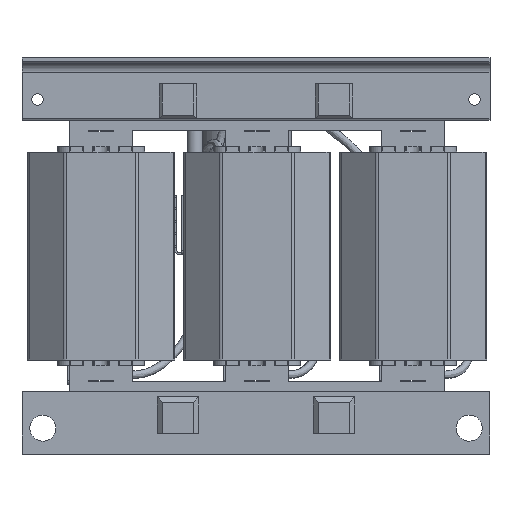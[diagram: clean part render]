
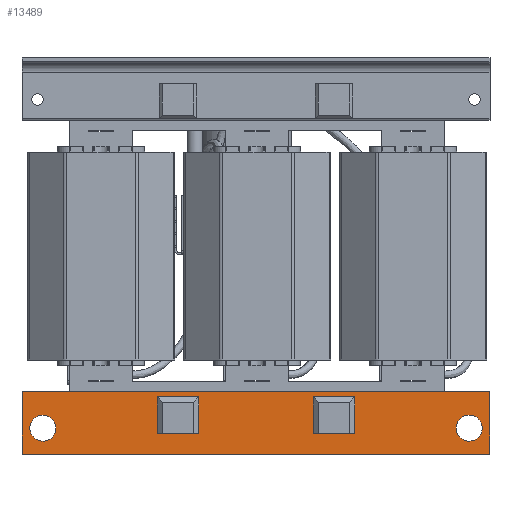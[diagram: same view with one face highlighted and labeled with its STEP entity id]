
A CAD part, front view. The second image highlights one B-rep face of the part: STEP entity #13489.
In plain terms, the highlighted planar face has unit normal (0, -1, 0).
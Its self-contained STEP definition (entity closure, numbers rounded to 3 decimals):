
#11204=CARTESIAN_POINT('',(111.269,-515.493,-153.));
#11205=VERTEX_POINT('',#11204);
#11212=CARTESIAN_POINT('',(111.269,-515.493,-118.));
#11213=VERTEX_POINT('',#11212);
#11214=CARTESIAN_POINT('',(111.269,-515.493,-118.));
#11215=DIRECTION('',(0.0,0.0,-1.0));
#11216=VECTOR('',#11215,35.);
#11217=LINE('',#11214,#11216);
#11218=EDGE_CURVE('',#11213,#11205,#11217,.T.);
#11242=CARTESIAN_POINT('',(71.269,-515.493,-118.));
#11243=VERTEX_POINT('',#11242);
#11244=CARTESIAN_POINT('',(71.269,-515.493,-118.));
#11245=DIRECTION('',(1.0,0.0,0.0));
#11246=VECTOR('',#11245,40.);
#11247=LINE('',#11244,#11246);
#11248=EDGE_CURVE('',#11243,#11213,#11247,.T.);
#11273=CARTESIAN_POINT('',(71.269,-515.493,-153.));
#11274=VERTEX_POINT('',#11273);
#11275=CARTESIAN_POINT('',(71.269,-515.493,-153.));
#11276=DIRECTION('',(0.0,0.0,1.0));
#11277=VECTOR('',#11276,35.);
#11278=LINE('',#11275,#11277);
#11279=EDGE_CURVE('',#11274,#11243,#11278,.T.);
#11306=CARTESIAN_POINT('',(-38.731,-515.493,-153.));
#11307=VERTEX_POINT('',#11306);
#11314=CARTESIAN_POINT('',(-38.731,-515.493,-118.));
#11315=VERTEX_POINT('',#11314);
#11316=CARTESIAN_POINT('',(-38.731,-515.493,-118.));
#11317=DIRECTION('',(0.0,0.0,-1.0));
#11318=VECTOR('',#11317,35.0);
#11319=LINE('',#11316,#11318);
#11320=EDGE_CURVE('',#11315,#11307,#11319,.T.);
#11344=CARTESIAN_POINT('',(-78.731,-515.493,-118.));
#11345=VERTEX_POINT('',#11344);
#11346=CARTESIAN_POINT('',(-78.731,-515.493,-118.));
#11347=DIRECTION('',(1.0,0.0,0.0));
#11348=VECTOR('',#11347,40.);
#11349=LINE('',#11346,#11348);
#11350=EDGE_CURVE('',#11345,#11315,#11349,.T.);
#11375=CARTESIAN_POINT('',(-78.731,-515.493,-153.));
#11376=VERTEX_POINT('',#11375);
#11377=CARTESIAN_POINT('',(-78.731,-515.493,-153.));
#11378=DIRECTION('',(0.0,0.0,1.0));
#11379=VECTOR('',#11378,35.);
#11380=LINE('',#11377,#11379);
#11381=EDGE_CURVE('',#11376,#11345,#11380,.T.);
#13072=CARTESIAN_POINT('',(111.269,-515.493,-153.));
#13073=DIRECTION('',(-1.0,0.0,0.0));
#13074=VECTOR('',#13073,40.);
#13075=LINE('',#13072,#13074);
#13076=EDGE_CURVE('',#11205,#11274,#13075,.T.);
#13131=CARTESIAN_POINT('',(-38.731,-515.493,-153.));
#13132=DIRECTION('',(-1.0,0.0,0.0));
#13133=VECTOR('',#13132,40.0);
#13134=LINE('',#13131,#13133);
#13135=EDGE_CURVE('',#11307,#11376,#13134,.T.);
#13163=CARTESIAN_POINT('',(-179.777,-515.493,-156.722));
#13164=VERTEX_POINT('',#13163);
#13171=CARTESIAN_POINT('',(-180.621,-515.493,-157.512));
#13172=VERTEX_POINT('',#13171);
#13173=CARTESIAN_POINT('',(-188.731,-515.493,-148.));
#13174=DIRECTION('',(0.0,-1.0,0.0));
#13175=DIRECTION('',(1.0,0.0,0.0));
#13176=AXIS2_PLACEMENT_3D('',#13173,#13174,#13175);
#13177=CIRCLE('',#13176,12.5);
#13178=EDGE_CURVE('',#13164,#13172,#13177,.T.);
#13195=CARTESIAN_POINT('',(213.87,-515.493,-158.075));
#13196=VERTEX_POINT('',#13195);
#13203=CARTESIAN_POINT('',(210.349,-515.493,-154.082));
#13204=VERTEX_POINT('',#13203);
#13205=CARTESIAN_POINT('',(221.269,-515.493,-148.));
#13206=DIRECTION('',(0.,-1.0,0.));
#13207=DIRECTION('',(0.507,0.,0.862));
#13208=AXIS2_PLACEMENT_3D('',#13205,#13206,#13207);
#13209=CIRCLE('',#13208,12.5);
#13210=EDGE_CURVE('',#13196,#13204,#13209,.T.);
#13226=CARTESIAN_POINT('',(211.852,-515.493,-156.22));
#13227=VERTEX_POINT('',#13226);
#13234=CARTESIAN_POINT('',(212.003,-515.493,-156.389));
#13235=VERTEX_POINT('',#13234);
#13236=CARTESIAN_POINT('',(221.269,-515.493,-148.));
#13237=DIRECTION('',(0.,-1.0,0.));
#13238=DIRECTION('',(-0.664,0.,0.747));
#13239=AXIS2_PLACEMENT_3D('',#13236,#13237,#13238);
#13240=CIRCLE('',#13239,12.5);
#13241=EDGE_CURVE('',#13227,#13235,#13240,.T.);
#13258=CARTESIAN_POINT('',(-208.731,-515.493,-173.));
#13259=VERTEX_POINT('',#13258);
#13260=CARTESIAN_POINT('',(-208.731,-515.493,-113.));
#13261=VERTEX_POINT('',#13260);
#13262=CARTESIAN_POINT('',(-208.731,-515.493,-173.));
#13263=DIRECTION('',(0.0,0.0,1.0));
#13264=VECTOR('',#13263,60.);
#13265=LINE('',#13262,#13264);
#13266=EDGE_CURVE('',#13259,#13261,#13265,.T.);
#13289=CARTESIAN_POINT('',(241.269,-515.493,-113.));
#13290=VERTEX_POINT('',#13289);
#13291=CARTESIAN_POINT('',(-208.731,-515.493,-113.));
#13292=DIRECTION('',(1.0,0.0,0.0));
#13293=VECTOR('',#13292,450.);
#13294=LINE('',#13291,#13293);
#13295=EDGE_CURVE('',#13261,#13290,#13294,.T.);
#13315=CARTESIAN_POINT('',(241.269,-515.493,-173.));
#13316=VERTEX_POINT('',#13315);
#13317=CARTESIAN_POINT('',(241.269,-515.493,-113.));
#13318=DIRECTION('',(0.0,0.0,-1.0));
#13319=VECTOR('',#13318,60.);
#13320=LINE('',#13317,#13319);
#13321=EDGE_CURVE('',#13290,#13316,#13320,.T.);
#13339=CARTESIAN_POINT('',(241.269,-515.493,-173.));
#13340=DIRECTION('',(-1.0,0.0,0.0));
#13341=VECTOR('',#13340,450.);
#13342=LINE('',#13339,#13341);
#13343=EDGE_CURVE('',#13316,#13259,#13342,.T.);
#13365=CARTESIAN_POINT('',(-180.518,-515.493,-157.649));
#13366=VERTEX_POINT('',#13365);
#13367=CARTESIAN_POINT('',(-180.621,-515.493,-157.512));
#13368=DIRECTION('',(0.602,0.0,-0.799));
#13369=VECTOR('',#13368,0.171);
#13370=LINE('',#13367,#13369);
#13371=EDGE_CURVE('',#13172,#13366,#13370,.T.);
#13391=CARTESIAN_POINT('',(-180.518,-515.493,-157.649));
#13392=DIRECTION('',(0.625,0.0,0.781));
#13393=VECTOR('',#13392,1.187);
#13394=LINE('',#13391,#13393);
#13395=EDGE_CURVE('',#13366,#13164,#13394,.T.);
#13406=CARTESIAN_POINT('',(213.666,-515.493,-158.26));
#13407=VERTEX_POINT('',#13406);
#13414=CARTESIAN_POINT('',(213.666,-515.493,-158.26));
#13415=DIRECTION('',(0.742,0.0,0.671));
#13416=VECTOR('',#13415,0.276);
#13417=LINE('',#13414,#13416);
#13418=EDGE_CURVE('',#13407,#13196,#13417,.T.);
#13431=CARTESIAN_POINT('',(212.003,-515.493,-156.389));
#13432=DIRECTION('',(0.664,0.0,-0.747));
#13433=VECTOR('',#13432,2.504);
#13434=LINE('',#13431,#13433);
#13435=EDGE_CURVE('',#13235,#13407,#13434,.T.);
#13441=CARTESIAN_POINT('',(-208.731,-515.493,-143.));
#13442=DIRECTION('',(0.0,-1.0,0.0));
#13443=DIRECTION('',(0.0,0.0,-1.0));
#13444=AXIS2_PLACEMENT_3D('',#13441,#13442,#13443);
#13445=PLANE('',#13444);
#13446=ORIENTED_EDGE('',*,*,#13266,.F.);
#13447=ORIENTED_EDGE('',*,*,#13343,.F.);
#13448=ORIENTED_EDGE('',*,*,#13321,.F.);
#13449=ORIENTED_EDGE('',*,*,#13295,.F.);
#13450=EDGE_LOOP('',(#13446,#13447,#13448,#13449));
#13451=FACE_OUTER_BOUND('',#13450,.T.);
#13452=ORIENTED_EDGE('',*,*,#13076,.T.);
#13453=ORIENTED_EDGE('',*,*,#11279,.T.);
#13454=ORIENTED_EDGE('',*,*,#11248,.T.);
#13455=ORIENTED_EDGE('',*,*,#11218,.T.);
#13456=EDGE_LOOP('',(#13452,#13453,#13454,#13455));
#13457=FACE_BOUND('',#13456,.T.);
#13458=ORIENTED_EDGE('',*,*,#13135,.T.);
#13459=ORIENTED_EDGE('',*,*,#11381,.T.);
#13460=ORIENTED_EDGE('',*,*,#11350,.T.);
#13461=ORIENTED_EDGE('',*,*,#11320,.T.);
#13462=EDGE_LOOP('',(#13458,#13459,#13460,#13461));
#13463=FACE_BOUND('',#13462,.T.);
#13464=ORIENTED_EDGE('',*,*,#13395,.F.);
#13465=ORIENTED_EDGE('',*,*,#13371,.F.);
#13466=ORIENTED_EDGE('',*,*,#13178,.F.);
#13467=EDGE_LOOP('',(#13464,#13465,#13466));
#13468=FACE_BOUND('',#13467,.T.);
#13469=ORIENTED_EDGE('',*,*,#13210,.F.);
#13470=ORIENTED_EDGE('',*,*,#13418,.F.);
#13471=ORIENTED_EDGE('',*,*,#13435,.F.);
#13472=ORIENTED_EDGE('',*,*,#13241,.F.);
#13473=CARTESIAN_POINT('',(210.097,-515.493,-154.245));
#13474=VERTEX_POINT('',#13473);
#13475=CARTESIAN_POINT('',(211.852,-515.493,-156.22));
#13476=DIRECTION('',(-0.664,0.0,0.747));
#13477=VECTOR('',#13476,2.642);
#13478=LINE('',#13475,#13477);
#13479=EDGE_CURVE('',#13227,#13474,#13478,.T.);
#13480=ORIENTED_EDGE('',*,*,#13479,.T.);
#13481=CARTESIAN_POINT('',(210.097,-515.493,-154.245));
#13482=DIRECTION('',(0.84,0.0,0.543));
#13483=VECTOR('',#13482,0.3);
#13484=LINE('',#13481,#13483);
#13485=EDGE_CURVE('',#13474,#13204,#13484,.T.);
#13486=ORIENTED_EDGE('',*,*,#13485,.T.);
#13487=EDGE_LOOP('',(#13469,#13470,#13471,#13472,#13480,#13486));
#13488=FACE_BOUND('',#13487,.T.);
#13489=ADVANCED_FACE('',(#13451,#13457,#13463,#13468,#13488),#13445,.T.);
